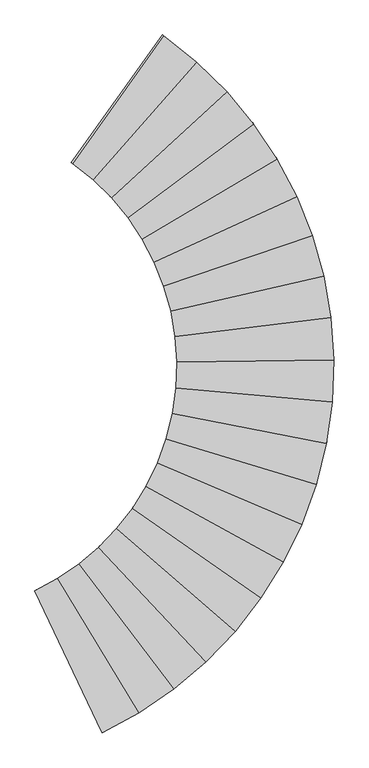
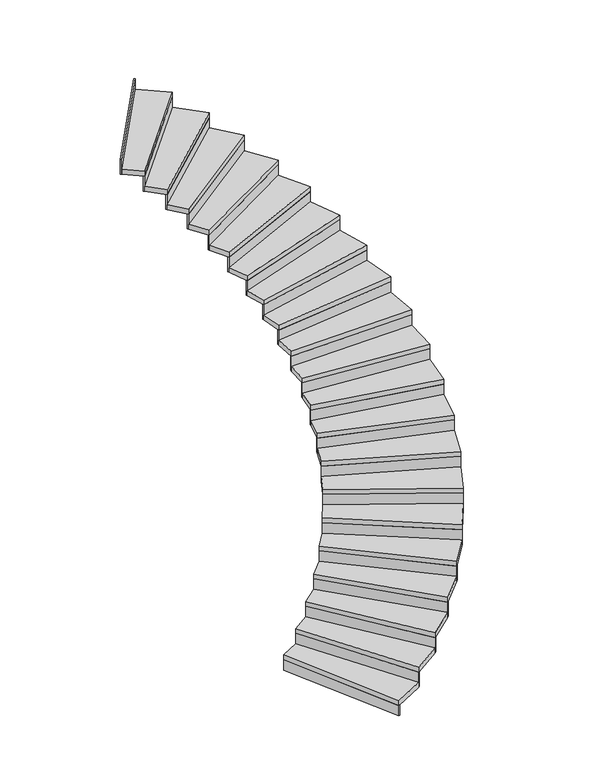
"""IFC4 building model written with IfcOpenShell, lengths in millimetres: stair flight geometry, 50mm 踏板 13mm 踢面."""

import ifcopenshell
import ifcopenshell.guid

model = None  # the IFC model being written
_history = None  # IfcOwnerHistory: only IFC2X3 demands one
_inside = {}  # id of a spatial element -> (the spatial element, [elements in it])
_under = {}  # id of a project, library or spatial element -> (it, [spatial elements below it])
_declared = {}  # id of a project -> (the project, [libraries it declares])
_typed = {}  # id of a type object -> (the type object, [elements of that type])
_made_of = {}  # id of a material, layer set ... -> (it, [elements and type objects made of it])


def new_model(schema):
    """Start an empty IFC model of exactly this schema.

    Asked for "IFC4X3", IfcOpenShell would pick the latest addendum, in which some entities
    have other attributes; the version numbers below select the first issue.
    IFC2X3 requires an IfcOwnerHistory on every rooted entity: one is made here for all.
    """
    global model, _history
    if schema == "IFC4X3":
        model = ifcopenshell.file(schema_version=(4, 3, 0, 0))
    else:
        model = ifcopenshell.file(schema=schema)
    _inside.clear()
    _under.clear()
    _declared.clear()
    _typed.clear()
    _made_of.clear()
    _history = None
    if model.schema == "IFC2X3":
        org = make("IfcOrganization", Name="unknown")
        user = make(
            "IfcPersonAndOrganization",
            ThePerson=make("IfcPerson", FamilyName="unknown"),
            TheOrganization=org,
        )
        app = make(
            "IfcApplication",
            ApplicationDeveloper=org,
            Version="unknown",
            ApplicationFullName="unknown",
            ApplicationIdentifier="unknown",
        )
        _history = make(
            "IfcOwnerHistory",
            OwningUser=user,
            OwningApplication=app,
            ChangeAction="ADDED",
            CreationDate=0,
        )
    return model


def make(cls, **values):
    """One entity of the class cls with the attributes given. An attribute that is None is left unset."""
    return model.create_entity(
        cls, **{name: value for name, value in values.items() if value is not None}
    )


def rooted(cls, **values):
    """An entity with a GlobalId (a new one), such as an element, a storey or a relation."""
    return make(cls, GlobalId=ifcopenshell.guid.new(), OwnerHistory=_history, **values)


def si_unit(unit_type, name, prefix=None):
    """IfcSIUnit, for example si_unit("LENGTHUNIT", "METRE", prefix="MILLI")."""
    return make("IfcSIUnit", UnitType=unit_type, Prefix=prefix, Name=name)


def assignment(units):
    """IfcUnitAssignment: the units of a project."""
    return None if units is None else make("IfcUnitAssignment", Units=units)


def point(xyz):
    """IfcCartesianPoint."""
    return None if xyz is None else make("IfcCartesianPoint", Coordinates=xyz)


def direction(xyz):
    """IfcDirection."""
    return None if xyz is None else make("IfcDirection", DirectionRatios=xyz)


def frame(location, z_axis=None, x_axis=None):
    """IfcAxis2Placement3D, a coordinate frame: its origin and axes. An axis left out is left unset."""
    return make(
        "IfcAxis2Placement3D",
        Location=point(location),
        Axis=direction(z_axis),
        RefDirection=direction(x_axis),
    )


def frame_2d(location, x_axis=None):
    """IfcAxis2Placement2D, a coordinate frame in the plane: its origin and x axis."""
    return make(
        "IfcAxis2Placement2D", Location=point(location), RefDirection=direction(x_axis)
    )


def origin():
    """The frame at (0, 0, 0) with its axes left unset."""
    return frame((0.0, 0.0, 0.0))


def origin_with_axes():
    """The frame at (0, 0, 0) with the z axis (0, 0, 1) and the x axis (1, 0, 0) written out."""
    return frame((0.0, 0.0, 0.0), z_axis=(0.0, 0.0, 1.0), x_axis=(1.0, 0.0, 0.0))


def place(relative_to, where):
    """IfcLocalPlacement: puts the frame where relative to a parent placement (None: the world)."""
    return make(
        "IfcLocalPlacement", PlacementRelTo=relative_to, RelativePlacement=where
    )


def context(
    kind, dimensions, precision=None, world=None, true_north=None, identifier=None
):
    """IfcGeometricRepresentationContext, for example the 3D "Model" context."""
    return make(
        "IfcGeometricRepresentationContext",
        ContextIdentifier=identifier,
        ContextType=kind,
        CoordinateSpaceDimension=dimensions,
        Precision=precision,
        WorldCoordinateSystem=world,
        TrueNorth=true_north,
    )


def project(units=None, contexts=None):
    """IfcProject with its units and contexts."""
    return rooted(
        "IfcProject",
        Name="project",
        RepresentationContexts=contexts,
        UnitsInContext=assignment(units),
    )


def spatial(cls, under=None, at=None, **own):
    """A site, building, storey or space (cls), placed at a placement, below another one or the project."""
    s = rooted(cls, ObjectPlacement=at, **own)
    if under is not None:
        _under.setdefault(under.id(), (under, []))[1].append(s)
    return s


def polyline(points):
    """IfcPolyline through the points."""
    return make("IfcPolyline", Points=[point(p) for p in points])


def circle_curve(where, radius):
    """IfcCircle in the frame where."""
    return make("IfcCircle", Position=where, Radius=radius)


def trimmed(basis, trim1, trim2, sense, master):
    """IfcTrimmedCurve: the piece of a basis curve between two trims."""
    return make(
        "IfcTrimmedCurve",
        BasisCurve=basis,
        Trim1=trim1,
        Trim2=trim2,
        SenseAgreement=sense,
        MasterRepresentation=master,
    )


def segment(curve, same_sense, transition):
    """IfcCompositeCurveSegment."""
    return make(
        "IfcCompositeCurveSegment",
        Transition=transition,
        SameSense=same_sense,
        ParentCurve=curve,
    )


def composite_curve(segments, self_intersect=None):
    """IfcCompositeCurve: segments joined end to end."""
    return make("IfcCompositeCurve", Segments=segments, SelfIntersect=self_intersect)


def outline(outer, holes=None, kind="AREA"):
    """IfcArbitraryClosedProfileDef: a profile drawn as a closed curve; with holes, ...WithVoids."""
    if holes is None:
        return make("IfcArbitraryClosedProfileDef", ProfileType=kind, OuterCurve=outer)
    return make(
        "IfcArbitraryProfileDefWithVoids",
        ProfileType=kind,
        OuterCurve=outer,
        InnerCurves=holes,
    )


def extrude(swept, where, along, depth):
    """IfcExtrudedAreaSolid: the profile swept, set in the frame where, extruded along a direction by depth."""
    return make(
        "IfcExtrudedAreaSolid",
        SweptArea=swept,
        Position=where,
        ExtrudedDirection=direction(along),
        Depth=depth,
    )


def shape(context_of_items, identifier, shape_type, items):
    """IfcShapeRepresentation: the items that make up one representation, for example the "Body"."""
    return make(
        "IfcShapeRepresentation",
        ContextOfItems=context_of_items,
        RepresentationIdentifier=identifier,
        RepresentationType=shape_type,
        Items=items,
    )


def source(mapping_origin, context_of_items, identifier, shape_type, items):
    """IfcRepresentationMap: a shape defined once, which mapped items show again and again."""
    return make(
        "IfcRepresentationMap",
        MappingOrigin=mapping_origin,
        MappedRepresentation=shape(context_of_items, identifier, shape_type, items),
    )


def transform(
    local_origin,
    x_axis=None,
    y_axis=None,
    z_axis=None,
    scale=None,
    scale2=None,
    scale3=None,
    uniform=True,
):
    """IfcCartesianTransformationOperator3D, or its non-uniform kind. x_axis, y_axis, z_axis: its Axis1, 2, 3."""
    if uniform:
        return make(
            "IfcCartesianTransformationOperator3D",
            Axis1=direction(x_axis),
            Axis2=direction(y_axis),
            LocalOrigin=point(local_origin),
            Scale=scale,
            Axis3=direction(z_axis),
        )
    return make(
        "IfcCartesianTransformationOperator3DnonUniform",
        Axis1=direction(x_axis),
        Axis2=direction(y_axis),
        LocalOrigin=point(local_origin),
        Scale=scale,
        Axis3=direction(z_axis),
        Scale2=scale2,
        Scale3=scale3,
    )


def mapped(mapping_source, mapping_target):
    """IfcMappedItem: shows the shape of a source again, moved by a transform."""
    return make(
        "IfcMappedItem", MappingSource=mapping_source, MappingTarget=mapping_target
    )


def made_of(thing, what):
    """Note that an element or type object is made of a material, layer set ...; save() writes the relation."""
    if what is not None:
        _made_of.setdefault(what.id(), (what, []))[1].append(thing)
    return thing


def element(
    cls,
    number,
    at=None,
    inside=None,
    cuts=None,
    type_object=None,
    material=None,
    context=None,
    identifier="Body",
    shape_type=None,
    held_by="IfcProductDefinitionShape",
    body=None,
    shapes=None,
    **own,
):
    """One element of the class cls, such as IfcWall. Its Tag is "e" and its number.

    at: its placement. inside: the storey or other place that contains it. cuts: it is an
    opening in that element (IfcRelVoidsElement). A single representation is given by context,
    identifier, shape_type and body (its items); several are given by shapes. held_by: the class
    of the entity that holds the representations. save() writes the other relations.
    """
    e = rooted(cls, Tag="e%d" % number, ObjectPlacement=at, **own)
    if body is not None:
        shapes = [shape(context, identifier, shape_type, body)]
    if shapes is not None:
        e.Representation = make(held_by, Representations=shapes)
    if inside is not None:
        _inside.setdefault(inside.id(), (inside, []))[1].append(e)
    if cuts is not None:
        rooted(
            "IfcRelVoidsElement", RelatingBuildingElement=cuts, RelatedOpeningElement=e
        )
    if type_object is not None:
        _typed.setdefault(type_object.id(), (type_object, []))[1].append(e)
    return made_of(e, material)


def aggregate(whole, parts):
    """IfcRelAggregates: a whole, such as a stair, and the parts it consists of."""
    return rooted("IfcRelAggregates", RelatingObject=whole, RelatedObjects=parts)


def save(model, path):
    """Write the relations noted so far, then the file.

    IfcRelAggregates (storeys below a building ...), IfcRelContainedInSpatialStructure (elements
    in a storey), IfcRelDefinesByType, IfcRelAssociatesMaterial and IfcRelDeclares: one each for
    every whole, place, type object, material and project.
    """
    for whole, parts in _under.values():
        aggregate(whole, parts)
    for where, things in _inside.values():
        rooted(
            "IfcRelContainedInSpatialStructure",
            RelatedElements=things,
            RelatingStructure=where,
        )
    for kind, things in _typed.values():
        rooted("IfcRelDefinesByType", RelatedObjects=things, RelatingType=kind)
    for what, things in _made_of.values():
        rooted("IfcRelAssociatesMaterial", RelatedObjects=things, RelatingMaterial=what)
    for by, libraries in _declared.values():
        rooted("IfcRelDeclares", RelatingContext=by, RelatedDefinitions=libraries)
    model.write(path)


def stair_flight_b16c3806(model_context):
    return source(origin(), model_context, "Body", "SweptSolid", [
        extrude(outline(composite_curve([segment(trimmed(circle_curve(frame_2d((-5895.4859105, 485.3586995)), 3100.0), [point((-4558.4251981, -2311.4731959))], [point((-4569.7136158, -2316.8418327))], False, "CARTESIAN"), True, "CONTINUOUS"), segment(polyline([(-4569.7136158, -2316.8418327), (-5082.9157944, -1232.1190461)]), True, "CONTINUOUS"), segment(trimmed(circle_curve(frame_2d((-5895.4859105, 485.3586995)), 1900.0), [point((-5082.9157944, -1232.1190461))], [point((-5071.6341839, -1226.7360212))], True, "CARTESIAN"), True, "CONTINUOUS"), segment(polyline([(-5071.6341839, -1226.7360212), (-4558.4251981, -2311.4731959)]), True, "CONTINUOUS")], self_intersect=False)), origin_with_axes(), (0.0, 0.0, 1.0), 107.1428571),
        extrude(outline(composite_curve([segment(polyline([(-4908.9341426, -1138.4379655), (-4285.8488155, -2163.9937539)]), True, "CONTINUOUS"), segment(trimmed(circle_curve(frame_2d((-5895.4859105, 485.3586995)), 3100.0), [point((-4285.8488155, -2163.9937539))], [point((-4569.7136158, -2316.8418327))], False, "CARTESIAN"), True, "CONTINUOUS"), segment(polyline([(-4569.7136158, -2316.8418327), (-5082.9157944, -1232.1190461)]), True, "CONTINUOUS"), segment(trimmed(circle_curve(frame_2d((-5895.4859105, 485.3586995)), 1900.0), [point((-5082.9157944, -1232.1190461))], [point((-4908.9341426, -1138.4379655))], True, "CARTESIAN"), True, "CONTINUOUS")], self_intersect=False)), frame((0.0, 0.0, 107.1428571), z_axis=(0.0, 0.0, 1.0), x_axis=(1.0, 0.0, 0.0)), (0.0, 0.0, 1.0), 50.0),
        extrude(outline(composite_curve([segment(trimmed(circle_curve(frame_2d((-5895.4859105, 485.3586995)), 3100.0), [point((-4275.1790284, -2157.4817436))], [point((-4285.8488155, -2163.9937539))], False, "CARTESIAN"), True, "CONTINUOUS"), segment(polyline([(-4285.8488155, -2163.9937539), (-4908.9341426, -1138.4379655)]), True, "CONTINUOUS"), segment(trimmed(circle_curve(frame_2d((-5895.4859105, 485.3586995)), 1900.0), [point((-4908.9341426, -1138.4379655))], [point((-4898.2726203, -1131.912352))], True, "CARTESIAN"), True, "CONTINUOUS"), segment(polyline([(-4898.2726203, -1131.912352), (-4275.1790284, -2157.4817436)]), True, "CONTINUOUS")], self_intersect=False)), frame((0.0, 0.0, 107.1428571), z_axis=(0.0, 0.0, 1.0), x_axis=(1.0, 0.0, 0.0)), (0.0, 0.0, 1.0), 157.1428571),
        extrude(outline(composite_curve([segment(polyline([(-4745.6230348, -1027.1939003), (-4019.3938501, -1982.490279)]), True, "CONTINUOUS"), segment(trimmed(circle_curve(frame_2d((-5895.4859105, 485.3586995)), 3100.0), [point((-4019.3938501, -1982.490279))], [point((-4285.8488155, -2163.9937539))], False, "CARTESIAN"), True, "CONTINUOUS"), segment(polyline([(-4285.8488155, -2163.9937539), (-4908.9341426, -1138.4379655)]), True, "CONTINUOUS"), segment(trimmed(circle_curve(frame_2d((-5895.4859105, 485.3586995)), 1900.0), [point((-4908.9341426, -1138.4379655))], [point((-4745.6230348, -1027.1939003))], True, "CARTESIAN"), True, "CONTINUOUS")], self_intersect=False)), frame((0.0, 0.0, 264.2857143), z_axis=(0.0, 0.0, 1.0), x_axis=(1.0, 0.0, 0.0)), (0.0, 0.0, 1.0), 50.0),
        extrude(outline(composite_curve([segment(trimmed(circle_curve(frame_2d((-5895.4859105, 485.3586995)), 3100.0), [point((-4009.458098, -1974.9053291))], [point((-4019.3938501, -1982.490279))], False, "CARTESIAN"), True, "CONTINUOUS"), segment(polyline([(-4019.3938501, -1982.490279), (-4745.6230348, -1027.1939003)]), True, "CONTINUOUS"), segment(trimmed(circle_curve(frame_2d((-5895.4859105, 485.3586995)), 1900.0), [point((-4745.6230348, -1027.1939003))], [point((-4735.6969156, -1019.596279))], True, "CARTESIAN"), True, "CONTINUOUS"), segment(polyline([(-4735.6969156, -1019.596279), (-4009.458098, -1974.9053291)]), True, "CONTINUOUS")], self_intersect=False)), frame((0.0, 0.0, 264.2857143), z_axis=(0.0, 0.0, 1.0), x_axis=(1.0, 0.0, 0.0)), (0.0, 0.0, 1.0), 157.1428571),
        extrude(outline(composite_curve([segment(polyline([(-4594.7488438, -899.5900661), (-3773.2306964, -1774.2945496)]), True, "CONTINUOUS"), segment(trimmed(circle_curve(frame_2d((-5895.4859105, 485.3586995)), 3100.0), [point((-3773.2306964, -1774.2945496))], [point((-4019.3938501, -1982.490279))], False, "CARTESIAN"), True, "CONTINUOUS"), segment(polyline([(-4019.3938501, -1982.490279), (-4745.6230348, -1027.1939003)]), True, "CONTINUOUS"), segment(trimmed(circle_curve(frame_2d((-5895.4859105, 485.3586995)), 1900.0), [point((-4745.6230348, -1027.1939003))], [point((-4594.7488438, -899.5900661))], True, "CARTESIAN"), True, "CONTINUOUS")], self_intersect=False)), frame((0.0, 0.0, 421.4285714), z_axis=(0.0, 0.0, 1.0), x_axis=(1.0, 0.0, 0.0)), (0.0, 0.0, 1.0), 50.0),
        extrude(outline(composite_curve([segment(trimmed(circle_curve(frame_2d((-5895.4859105, 485.3586995)), 3100.0), [point((-3764.1364444, -1765.7186989))], [point((-3773.2306964, -1774.2945496))], False, "CARTESIAN"), True, "CONTINUOUS"), segment(polyline([(-3773.2306964, -1774.2945496), (-4594.7488438, -899.5900661)]), True, "CONTINUOUS"), segment(trimmed(circle_curve(frame_2d((-5895.4859105, 485.3586995)), 1900.0), [point((-4594.7488438, -899.5900661))], [point((-4585.6654887, -891.002613))], True, "CARTESIAN"), True, "CONTINUOUS"), segment(polyline([(-4585.6654887, -891.002613), (-3764.1364444, -1765.7186989)]), True, "CONTINUOUS")], self_intersect=False)), frame((0.0, 0.0, 421.4285714), z_axis=(0.0, 0.0, 1.0), x_axis=(1.0, 0.0, 0.0)), (0.0, 0.0, 1.0), 157.1428571),
        extrude(outline(composite_curve([segment(polyline([(-4457.9434249, -757.0066261), (-3550.0218551, -1541.6584106)]), True, "CONTINUOUS"), segment(trimmed(circle_curve(frame_2d((-5895.4859105, 485.3586995)), 3100.0), [point((-3550.0218551, -1541.6584106))], [point((-3773.2306964, -1774.2945496))], False, "CARTESIAN"), True, "CONTINUOUS"), segment(polyline([(-3773.2306964, -1774.2945496), (-4594.7488438, -899.5900661)]), True, "CONTINUOUS"), segment(trimmed(circle_curve(frame_2d((-5895.4859105, 485.3586995)), 1900.0), [point((-4594.7488438, -899.5900661))], [point((-4457.9434249, -757.0066261))], True, "CARTESIAN"), True, "CONTINUOUS")], self_intersect=False)), frame((0.0, 0.0, 578.5714286), z_axis=(0.0, 0.0, 1.0), x_axis=(1.0, 0.0, 0.0)), (0.0, 0.0, 1.0), 50.0),
        extrude(outline(composite_curve([segment(trimmed(circle_curve(frame_2d((-5895.4859105, 485.3586995)), 3100.0), [point((-3541.8674666, -1532.1844155))], [point((-3550.0218551, -1541.6584106))], False, "CARTESIAN"), True, "CONTINUOUS"), segment(polyline([(-3550.0218551, -1541.6584106), (-4457.9434249, -757.0066261)]), True, "CONTINUOUS"), segment(trimmed(circle_curve(frame_2d((-5895.4859105, 485.3586995)), 1900.0), [point((-4457.9434249, -757.0066261))], [point((-4449.8010794, -747.5222231))], True, "CARTESIAN"), True, "CONTINUOUS"), segment(polyline([(-4449.8010794, -747.5222231), (-3541.8674666, -1532.1844155)]), True, "CONTINUOUS")], self_intersect=False)), frame((0.0, 0.0, 578.5714286), z_axis=(0.0, 0.0, 1.0), x_axis=(1.0, 0.0, 0.0)), (0.0, 0.0, 1.0), 157.1428571),
        extrude(outline(composite_curve([segment(polyline([(-4336.6864656, -600.9857627), (-3352.181553, -1287.0980546)]), True, "CONTINUOUS"), segment(trimmed(circle_curve(frame_2d((-5895.4859105, 485.3586995)), 3100.0), [point((-3352.181553, -1287.0980546))], [point((-3550.0218551, -1541.6584106))], False, "CARTESIAN"), True, "CONTINUOUS"), segment(polyline([(-3550.0218551, -1541.6584106), (-4457.9434249, -757.0066261)]), True, "CONTINUOUS"), segment(trimmed(circle_curve(frame_2d((-5895.4859105, 485.3586995)), 1900.0), [point((-4457.9434249, -757.0066261))], [point((-4336.6864656, -600.9857627))], True, "CARTESIAN"), True, "CONTINUOUS")], self_intersect=False)), frame((0.0, 0.0, 735.7142857), z_axis=(0.0, 0.0, 1.0), x_axis=(1.0, 0.0, 0.0)), (0.0, 0.0, 1.0), 50.0),
        extrude(outline(composite_curve([segment(trimmed(circle_curve(frame_2d((-5895.4859105, 485.3586995)), 3100.0), [point((-3345.055226, -1276.8283857))], [point((-3352.181553, -1287.0980546))], False, "CARTESIAN"), True, "CONTINUOUS"), segment(polyline([(-3352.181553, -1287.0980546), (-4336.6864656, -600.9857627)]), True, "CONTINUOUS"), segment(trimmed(circle_curve(frame_2d((-5895.4859105, 485.3586995)), 1900.0), [point((-4336.6864656, -600.9857627))], [point((-4329.5731973, -590.7069931))], True, "CARTESIAN"), True, "CONTINUOUS"), segment(polyline([(-4329.5731973, -590.7069931), (-3345.055226, -1276.8283857)]), True, "CONTINUOUS")], self_intersect=False)), frame((0.0, 0.0, 735.7142857), z_axis=(0.0, 0.0, 1.0), x_axis=(1.0, 0.0, 0.0)), (0.0, 0.0, 1.0), 157.1428571),
        extrude(outline(composite_curve([segment(polyline([(-4232.2894811, -433.2149976), (-3181.8496308, -1013.3668063)]), True, "CONTINUOUS"), segment(trimmed(circle_curve(frame_2d((-5895.4859105, 485.3586995)), 3100.0), [point((-3181.8496308, -1013.3668063))], [point((-3352.181553, -1287.0980546))], False, "CARTESIAN"), True, "CONTINUOUS"), segment(polyline([(-3352.181553, -1287.0980546), (-4336.6864656, -600.9857627)]), True, "CONTINUOUS"), segment(trimmed(circle_curve(frame_2d((-5895.4859105, 485.3586995)), 1900.0), [point((-4336.6864656, -600.9857627))], [point((-4232.2894811, -433.2149976))], True, "CARTESIAN"), True, "CONTINUOUS")], self_intersect=False)), frame((0.0, 0.0, 892.8571429), z_axis=(0.0, 0.0, 1.0), x_axis=(1.0, 0.0, 0.0)), (0.0, 0.0, 1.0), 50.0),
        extrude(outline(composite_curve([segment(trimmed(circle_curve(frame_2d((-5895.4859105, 485.3586995)), 3100.0), [point((-3175.8284436, -1002.4125405))], [point((-3181.8496308, -1013.3668063))], False, "CARTESIAN"), True, "CONTINUOUS"), segment(polyline([(-3181.8496308, -1013.3668063), (-4232.2894811, -433.2149976)]), True, "CONTINUOUS"), segment(trimmed(circle_curve(frame_2d((-5895.4859105, 485.3586995)), 1900.0), [point((-4232.2894811, -433.2149976))], [point((-4226.2822271, -422.2530365))], True, "CARTESIAN"), True, "CONTINUOUS"), segment(polyline([(-4226.2822271, -422.2530365), (-3175.8284436, -1002.4125405)]), True, "CONTINUOUS")], self_intersect=False)), frame((0.0, 0.0, 892.8571429), z_axis=(0.0, 0.0, 1.0), x_axis=(1.0, 0.0, 0.0)), (0.0, 0.0, 1.0), 157.1428571),
        extrude(outline(composite_curve([segment(polyline([(-4145.8816291, -255.5089394), (-3040.8683987, -723.4253429)]), True, "CONTINUOUS"), segment(trimmed(circle_curve(frame_2d((-5895.4859105, 485.3586995)), 3100.0), [point((-3040.8683987, -723.4253429))], [point((-3181.8496308, -1013.3668063))], False, "CARTESIAN"), True, "CONTINUOUS"), segment(polyline([(-3181.8496308, -1013.3668063), (-4232.2894811, -433.2149976)]), True, "CONTINUOUS"), segment(trimmed(circle_curve(frame_2d((-5895.4859105, 485.3586995)), 1900.0), [point((-4232.2894811, -433.2149976))], [point((-4145.8816291, -255.5089394))], True, "CARTESIAN"), True, "CONTINUOUS")], self_intersect=False)), frame((0.0, 0.0, 1050.0), z_axis=(0.0, 0.0, 1.0), x_axis=(1.0, 0.0, 0.0)), (0.0, 0.0, 1.0), 50.0),
        extrude(outline(composite_curve([segment(trimmed(circle_curve(frame_2d((-5895.4859105, 485.3586995)), 3100.0), [point((-3036.0174764, -711.9049615))], [point((-3040.8683987, -723.4253429))], False, "CARTESIAN"), True, "CONTINUOUS"), segment(polyline([(-3040.8683987, -723.4253429), (-4145.8816291, -255.5089394)]), True, "CONTINUOUS"), segment(trimmed(circle_curve(frame_2d((-5895.4859105, 485.3586995)), 1900.0), [point((-4145.8816291, -255.5089394))], [point((-4141.045364, -243.9823514))], True, "CARTESIAN"), True, "CONTINUOUS"), segment(polyline([(-4141.045364, -243.9823514), (-3036.0174764, -711.9049615)]), True, "CONTINUOUS")], self_intersect=False)), frame((0.0, 0.0, 1050.0), z_axis=(0.0, 0.0, 1.0), x_axis=(1.0, 0.0, 0.0)), (0.0, 0.0, 1.0), 157.1428571),
        extrude(outline(composite_curve([segment(polyline([(-4078.397497, -69.7896568), (-2930.7627096, -420.4096713)]), True, "CONTINUOUS"), segment(trimmed(circle_curve(frame_2d((-5895.4859105, 485.3586995)), 3100.0), [point((-2930.7627096, -420.4096713))], [point((-3040.8683987, -723.4253429))], False, "CARTESIAN"), True, "CONTINUOUS"), segment(polyline([(-3040.8683987, -723.4253429), (-4145.8816291, -255.5089394)]), True, "CONTINUOUS"), segment(trimmed(circle_curve(frame_2d((-5895.4859105, 485.3586995)), 1900.0), [point((-4145.8816291, -255.5089394))], [point((-4078.397497, -69.7896568))], True, "CARTESIAN"), True, "CONTINUOUS")], self_intersect=False)), frame((0.0, 0.0, 1207.1428571), z_axis=(0.0, 0.0, 1.0), x_axis=(1.0, 0.0, 0.0)), (0.0, 0.0, 1.0), 50.0),
        extrude(outline(composite_curve([segment(trimmed(circle_curve(frame_2d((-5895.4859105, 485.3586995)), 3100.0), [point((-2927.1345197, -408.4477788))], [point((-2930.7627096, -420.4096713))], False, "CARTESIAN"), True, "CONTINUOUS"), segment(polyline([(-2930.7627096, -420.4096713), (-4078.397497, -69.7896568)]), True, "CONTINUOUS"), segment(trimmed(circle_curve(frame_2d((-5895.4859105, 485.3586995)), 1900.0), [point((-4078.397497, -69.7896568))], [point((-4074.7845298, -57.8231135))], True, "CARTESIAN"), True, "CONTINUOUS"), segment(polyline([(-4074.7845298, -57.8231135), (-2927.1345197, -408.4477788)]), True, "CONTINUOUS")], self_intersect=False)), frame((0.0, 0.0, 1207.1428571), z_axis=(0.0, 0.0, 1.0), x_axis=(1.0, 0.0, 0.0)), (0.0, 0.0, 1.0), 157.1428571),
        extrude(outline(composite_curve([segment(polyline([(-4030.5669933, 121.9341104), (-2852.7234666, -107.5972091)]), True, "CONTINUOUS"), segment(trimmed(circle_curve(frame_2d((-5895.4859105, 485.3586995)), 3100.0), [point((-2852.7234666, -107.5972091))], [point((-2930.7627096, -420.4096713))], False, "CARTESIAN"), True, "CONTINUOUS"), segment(polyline([(-2930.7627096, -420.4096713), (-4078.397497, -69.7896568)]), True, "CONTINUOUS"), segment(trimmed(circle_curve(frame_2d((-5895.4859105, 485.3586995)), 1900.0), [point((-4078.397497, -69.7896568))], [point((-4030.5669933, 121.9341104))], True, "CARTESIAN"), True, "CONTINUOUS")], self_intersect=False)), frame((0.0, 0.0, 1364.2857143), z_axis=(0.0, 0.0, 1.0), x_axis=(1.0, 0.0, 0.0)), (0.0, 0.0, 1.0), 50.0),
        extrude(outline(composite_curve([segment(trimmed(circle_curve(frame_2d((-5895.4859105, 485.3586995)), 3100.0), [point((-2850.3572517, -95.3231852))], [point((-2852.7234666, -107.5972091))], False, "CARTESIAN"), True, "CONTINUOUS"), segment(polyline([(-2852.7234666, -107.5972091), (-4030.5669933, 121.9341104)]), True, "CONTINUOUS"), segment(trimmed(circle_curve(frame_2d((-5895.4859105, 485.3586995)), 1900.0), [point((-4030.5669933, 121.9341104))], [point((-4028.2164017, 134.2111788))], True, "CARTESIAN"), True, "CONTINUOUS"), segment(polyline([(-4028.2164017, 134.2111788), (-2850.3572517, -95.3231852)]), True, "CONTINUOUS")], self_intersect=False)), frame((0.0, 0.0, 1364.2857143), z_axis=(0.0, 0.0, 1.0), x_axis=(1.0, 0.0, 0.0)), (0.0, 0.0, 1.0), 157.1428571),
        extrude(outline(composite_curve([segment(polyline([(-4002.9074525, 317.5886779), (-2807.5947422, 211.6286643)]), True, "CONTINUOUS"), segment(trimmed(circle_curve(frame_2d((-5895.4859105, 485.3586995)), 3100.0), [point((-2807.5947422, 211.6286643))], [point((-2852.7234666, -107.5972091))], False, "CARTESIAN"), True, "CONTINUOUS"), segment(polyline([(-2852.7234666, -107.5972091), (-4030.5669933, 121.9341104)]), True, "CONTINUOUS"), segment(trimmed(circle_curve(frame_2d((-5895.4859105, 485.3586995)), 1900.0), [point((-4030.5669933, 121.9341104))], [point((-4002.9074525, 317.5886779))], True, "CARTESIAN"), True, "CONTINUOUS")], self_intersect=False)), frame((0.0, 0.0, 1521.4285714), z_axis=(0.0, 0.0, 1.0), x_axis=(1.0, 0.0, 0.0)), (0.0, 0.0, 1.0), 50.0),
        extrude(outline(composite_curve([segment(trimmed(circle_curve(frame_2d((-5895.4859105, 485.3586995)), 3100.0), [point((-2806.5160953, 224.0820637))], [point((-2807.5947422, 211.6286643))], False, "CARTESIAN"), True, "CONTINUOUS"), segment(polyline([(-2807.5947422, 211.6286643), (-4002.9074525, 317.5886779)]), True, "CONTINUOUS"), segment(trimmed(circle_curve(frame_2d((-5895.4859105, 485.3586995)), 1900.0), [point((-4002.9074525, 317.5886779))], [point((-4001.8446606, 330.0434828))], True, "CARTESIAN"), True, "CONTINUOUS"), segment(polyline([(-4001.8446606, 330.0434828), (-2806.5160953, 224.0820637)]), True, "CONTINUOUS")], self_intersect=False)), frame((0.0, 0.0, 1521.4285714), z_axis=(0.0, 0.0, 1.0), x_axis=(1.0, 0.0, 0.0)), (0.0, 0.0, 1.0), 157.1428571),
        extrude(outline(composite_curve([segment(polyline([(-3995.7180403, 515.057846), (-2795.8646486, 533.8152018)]), True, "CONTINUOUS"), segment(trimmed(circle_curve(frame_2d((-5895.4859105, 485.3586995)), 3100.0), [point((-2795.8646486, 533.8152018))], [point((-2807.5947422, 211.6286643))], False, "CARTESIAN"), True, "CONTINUOUS"), segment(polyline([(-2807.5947422, 211.6286643), (-4002.9074525, 317.5886779)]), True, "CONTINUOUS"), segment(trimmed(circle_curve(frame_2d((-5895.4859105, 485.3586995)), 1900.0), [point((-4002.9074525, 317.5886779))], [point((-3995.7180403, 515.057846))], True, "CARTESIAN"), True, "CONTINUOUS")], self_intersect=False)), frame((0.0, 0.0, 1678.5714286), z_axis=(0.0, 0.0, 1.0), x_axis=(1.0, 0.0, 0.0)), (0.0, 0.0, 1.0), 50.0),
        extrude(outline(composite_curve([segment(trimmed(circle_curve(frame_2d((-5895.4859105, 485.3586995)), 3100.0), [point((-2796.0852364, 546.3132807))], [point((-2795.8646486, 533.8152018))], False, "CARTESIAN"), True, "CONTINUOUS"), segment(polyline([(-2795.8646486, 533.8152018), (-3995.7180403, 515.057846)]), True, "CONTINUOUS"), segment(trimmed(circle_curve(frame_2d((-5895.4859105, 485.3586995)), 1900.0), [point((-3995.7180403, 515.057846))], [point((-3995.9545433, 527.5556761))], True, "CARTESIAN"), True, "CONTINUOUS"), segment(polyline([(-3995.9545433, 527.5556761), (-2796.0852364, 546.3132807)]), True, "CONTINUOUS")], self_intersect=False)), frame((0.0, 0.0, 1678.5714286), z_axis=(0.0, 0.0, 1.0), x_axis=(1.0, 0.0, 0.0)), (0.0, 0.0, 1.0), 157.1428571),
        extrude(outline(composite_curve([segment(polyline([(-4009.0765175, 712.2057882), (-2817.6600587, 855.4776337)]), True, "CONTINUOUS"), segment(trimmed(circle_curve(frame_2d((-5895.4859105, 485.3586995)), 3100.0), [point((-2817.6600587, 855.4776337))], [point((-2795.8646486, 533.8152018))], False, "CARTESIAN"), True, "CONTINUOUS"), segment(polyline([(-2795.8646486, 533.8152018), (-3995.7180403, 515.057846)]), True, "CONTINUOUS"), segment(trimmed(circle_curve(frame_2d((-5895.4859105, 485.3586995)), 1900.0), [point((-3995.7180403, 515.057846))], [point((-4009.0765175, 712.2057882))], True, "CARTESIAN"), True, "CONTINUOUS")], self_intersect=False)), frame((0.0, 0.0, 1835.7142857), z_axis=(0.0, 0.0, 1.0), x_axis=(1.0, 0.0, 0.0)), (0.0, 0.0, 1.0), 50.0),
        extrude(outline(composite_curve([segment(trimmed(circle_curve(frame_2d((-5895.4859105, 485.3586995)), 3100.0), [point((-2819.1774952, 867.8852129))], [point((-2817.6600587, 855.4776337))], False, "CARTESIAN"), True, "CONTINUOUS"), segment(polyline([(-2817.6600587, 855.4776337), (-4009.0765175, 712.2057882)]), True, "CONTINUOUS"), segment(trimmed(circle_curve(frame_2d((-5895.4859105, 485.3586995)), 1900.0), [point((-4009.0765175, 712.2057882))], [point((-4010.6097573, 724.611467))], True, "CARTESIAN"), True, "CONTINUOUS"), segment(polyline([(-4010.6097573, 724.611467), (-2819.1774952, 867.8852129)]), True, "CONTINUOUS")], self_intersect=False)), frame((0.0, 0.0, 1835.7142857), z_axis=(0.0, 0.0, 1.0), x_axis=(1.0, 0.0, 0.0)), (0.0, 0.0, 1.0), 157.1428571),
        extrude(outline(composite_curve([segment(polyline([(-4042.8383986, 906.9001522), (-2872.7452331, 1173.1368592)]), True, "CONTINUOUS"), segment(trimmed(circle_curve(frame_2d((-5895.4859105, 485.3586995)), 3100.0), [point((-2872.7452331, 1173.1368592))], [point((-2817.6600587, 855.4776337))], False, "CARTESIAN"), True, "CONTINUOUS"), segment(polyline([(-2817.6600587, 855.4776337), (-4009.0765175, 712.2057882)]), True, "CONTINUOUS"), segment(trimmed(circle_curve(frame_2d((-5895.4859105, 485.3586995)), 1900.0), [point((-4009.0765175, 712.2057882))], [point((-4042.8383986, 906.9001522))], True, "CARTESIAN"), True, "CONTINUOUS")], self_intersect=False)), frame((0.0, 0.0, 1992.8571429), z_axis=(0.0, 0.0, 1.0), x_axis=(1.0, 0.0, 0.0)), (0.0, 0.0, 1.0), 50.0),
        extrude(outline(composite_curve([segment(trimmed(circle_curve(frame_2d((-5895.4859105, 485.3586995)), 3100.0), [point((-2875.5431058, 1185.3197383))], [point((-2872.7452331, 1173.1368592))], False, "CARTESIAN"), True, "CONTINUOUS"), segment(polyline([(-2872.7452331, 1173.1368592), (-4042.8383986, 906.9001522)]), True, "CONTINUOUS"), segment(trimmed(circle_curve(frame_2d((-5895.4859105, 485.3586995)), 1900.0), [point((-4042.8383986, 906.9001522))], [point((-4045.6517917, 919.0794999))], True, "CARTESIAN"), True, "CONTINUOUS"), segment(polyline([(-4045.6517917, 919.0794999), (-2875.5431058, 1185.3197383)]), True, "CONTINUOUS")], self_intersect=False)), frame((0.0, 0.0, 1992.8571429), z_axis=(0.0, 0.0, 1.0), x_axis=(1.0, 0.0, 0.0)), (0.0, 0.0, 1.0), 157.1428571),
        extrude(outline(composite_curve([segment(polyline([(-4096.6385152, 1097.0351239), (-2960.5243707, 1483.3570761)]), True, "CONTINUOUS"), segment(trimmed(circle_curve(frame_2d((-5895.4859105, 485.3586995)), 3100.0), [point((-2960.5243707, 1483.3570761))], [point((-2872.7452331, 1173.1368592))], False, "CARTESIAN"), True, "CONTINUOUS"), segment(polyline([(-2872.7452331, 1173.1368592), (-4042.8383986, 906.9001522)]), True, "CONTINUOUS"), segment(trimmed(circle_curve(frame_2d((-5895.4859105, 485.3586995)), 1900.0), [point((-4042.8383986, 906.9001522))], [point((-4096.6385152, 1097.0351239))], True, "CARTESIAN"), True, "CONTINUOUS")], self_intersect=False)), frame((0.0, 0.0, 2150.0), z_axis=(0.0, 0.0, 1.0), x_axis=(1.0, 0.0, 0.0)), (0.0, 0.0, 1.0), 50.0),
        extrude(outline(composite_curve([segment(trimmed(circle_curve(frame_2d((-5895.4859105, 485.3586995)), 3100.0), [point((-2964.5724178, 1495.1834852))], [point((-2960.5243707, 1483.3570761))], False, "CARTESIAN"), True, "CONTINUOUS"), segment(polyline([(-2960.5243707, 1483.3570761), (-4096.6385152, 1097.0351239)]), True, "CONTINUOUS"), segment(trimmed(circle_curve(frame_2d((-5895.4859105, 485.3586995)), 1900.0), [point((-4096.6385152, 1097.0351239))], [point((-4100.701632, 1108.8564086))], True, "CARTESIAN"), True, "CONTINUOUS"), segment(polyline([(-4100.701632, 1108.8564086), (-2964.5724178, 1495.1834852)]), True, "CONTINUOUS")], self_intersect=False)), frame((0.0, 0.0, 2150.0), z_axis=(0.0, 0.0, 1.0), x_axis=(1.0, 0.0, 0.0)), (0.0, 0.0, 1.0), 157.1428571),
        extrude(outline(composite_curve([segment(polyline([(-4169.8949652, 1280.5542033), (-3080.0480524, 1782.7829426)]), True, "CONTINUOUS"), segment(trimmed(circle_curve(frame_2d((-5895.4859105, 485.3586995)), 3100.0), [point((-3080.0480524, 1782.7829426))], [point((-2960.5243707, 1483.3570761))], False, "CARTESIAN"), True, "CONTINUOUS"), segment(polyline([(-2960.5243707, 1483.3570761), (-4096.6385152, 1097.0351239)]), True, "CONTINUOUS"), segment(trimmed(circle_curve(frame_2d((-5895.4859105, 485.3586995)), 1900.0), [point((-4096.6385152, 1097.0351239))], [point((-4169.8949652, 1280.5542033))], True, "CARTESIAN"), True, "CONTINUOUS")], self_intersect=False)), frame((0.0, 0.0, 2307.1428571), z_axis=(0.0, 0.0, 1.0), x_axis=(1.0, 0.0, 0.0)), (0.0, 0.0, 1.0), 50.0),
        extrude(outline(composite_curve([segment(trimmed(circle_curve(frame_2d((-5895.4859105, 485.3586995)), 3100.0), [point((-3085.3024901, 1794.1249671))], [point((-3080.0480524, 1782.7829426))], False, "CARTESIAN"), True, "CONTINUOUS"), segment(polyline([(-3080.0480524, 1782.7829426), (-4169.8949652, 1280.5542033)]), True, "CONTINUOUS"), segment(trimmed(circle_curve(frame_2d((-5895.4859105, 485.3586995)), 1900.0), [point((-4169.8949652, 1280.5542033))], [point((-4175.163859, 1291.8895661))], True, "CARTESIAN"), True, "CONTINUOUS"), segment(polyline([(-4175.163859, 1291.8895661), (-3085.3024901, 1794.1249671)]), True, "CONTINUOUS")], self_intersect=False)), frame((0.0, 0.0, 2307.1428571), z_axis=(0.0, 0.0, 1.0), x_axis=(1.0, 0.0, 0.0)), (0.0, 0.0, 1.0), 157.1428571),
        extrude(outline(composite_curve([segment(polyline([(-4261.8154069, 1455.4724482), (-3230.0235099, 2068.1758685)]), True, "CONTINUOUS"), segment(trimmed(circle_curve(frame_2d((-5895.4859105, 485.3586995)), 3100.0), [point((-3230.0235099, 2068.1758685))], [point((-3080.0480524, 1782.7829426))], False, "CARTESIAN"), True, "CONTINUOUS"), segment(polyline([(-3080.0480524, 1782.7829426), (-4169.8949652, 1280.5542033)]), True, "CONTINUOUS"), segment(trimmed(circle_curve(frame_2d((-5895.4859105, 485.3586995)), 1900.0), [point((-4169.8949652, 1280.5542033))], [point((-4261.8154069, 1455.4724482))], True, "CARTESIAN"), True, "CONTINUOUS")], self_intersect=False)), frame((0.0, 0.0, 2464.2857143), z_axis=(0.0, 0.0, 1.0), x_axis=(1.0, 0.0, 0.0)), (0.0, 0.0, 1.0), 50.0),
        extrude(outline(composite_curve([segment(trimmed(circle_curve(frame_2d((-5895.4859105, 485.3586995)), 3100.0), [point((-3236.4275063, 2078.9108331))], [point((-3230.0235099, 2068.1758685))], False, "CARTESIAN"), True, "CONTINUOUS"), segment(polyline([(-3230.0235099, 2068.1758685), (-4261.8154069, 1455.4724482)]), True, "CONTINUOUS"), segment(trimmed(circle_curve(frame_2d((-5895.4859105, 485.3586995)), 1900.0), [point((-4261.8154069, 1455.4724482))], [point((-4268.2330893, 1466.1992858))], True, "CARTESIAN"), True, "CONTINUOUS"), segment(polyline([(-4268.2330893, 1466.1992858), (-3236.4275063, 2078.9108331)]), True, "CONTINUOUS")], self_intersect=False)), frame((0.0, 0.0, 2464.2857143), z_axis=(0.0, 0.0, 1.0), x_axis=(1.0, 0.0, 0.0)), (0.0, 0.0, 1.0), 157.1428571),
        extrude(outline(composite_curve([segment(polyline([(-4371.4056288, 1619.8979428), (-3408.8286087, 2336.4490439)]), True, "CONTINUOUS"), segment(trimmed(circle_curve(frame_2d((-5895.4859105, 485.3586995)), 3100.0), [point((-3408.8286087, 2336.4490439))], [point((-3230.0235099, 2068.1758685))], False, "CARTESIAN"), True, "CONTINUOUS"), segment(polyline([(-3230.0235099, 2068.1758685), (-4261.8154069, 1455.4724482)]), True, "CONTINUOUS"), segment(trimmed(circle_curve(frame_2d((-5895.4859105, 485.3586995)), 1900.0), [point((-4261.8154069, 1455.4724482))], [point((-4371.4056288, 1619.8979428))], True, "CARTESIAN"), True, "CONTINUOUS")], self_intersect=False)), frame((0.0, 0.0, 2621.4285714), z_axis=(0.0, 0.0, 1.0), x_axis=(1.0, 0.0, 0.0)), (0.0, 0.0, 1.0), 50.0),
        extrude(outline(composite_curve([segment(trimmed(circle_curve(frame_2d((-5895.4859105, 485.3586995)), 3100.0), [point((-3416.3128982, 2346.4608393))], [point((-3408.8286087, 2336.4490439))], False, "CARTESIAN"), True, "CONTINUOUS"), segment(polyline([(-3408.8286087, 2336.4490439), (-4371.4056288, 1619.8979428)]), True, "CONTINUOUS"), segment(trimmed(circle_curve(frame_2d((-5895.4859105, 485.3586995)), 1900.0), [point((-4371.4056288, 1619.8979428))], [point((-4378.9026862, 1629.9002336))], True, "CARTESIAN"), True, "CONTINUOUS"), segment(polyline([(-4378.9026862, 1629.9002336), (-3416.3128982, 2346.4608393)]), True, "CONTINUOUS")], self_intersect=False)), frame((0.0, 0.0, 2621.4285714), z_axis=(0.0, 0.0, 1.0), x_axis=(1.0, 0.0, 0.0)), (0.0, 0.0, 1.0), 157.1428571),
        extrude(outline(composite_curve([segment(polyline([(-4497.480303, 1772.052261), (-3614.5293929, 2584.7008261)]), True, "CONTINUOUS"), segment(trimmed(circle_curve(frame_2d((-5895.4859105, 485.3586995)), 3100.0), [point((-3614.5293929, 2584.7008261))], [point((-3408.8286087, 2336.4490439))], False, "CARTESIAN"), True, "CONTINUOUS"), segment(polyline([(-3408.8286087, 2336.4490439), (-4371.4056288, 1619.8979428)]), True, "CONTINUOUS"), segment(trimmed(circle_curve(frame_2d((-5895.4859105, 485.3586995)), 1900.0), [point((-4371.4056288, 1619.8979428))], [point((-4497.480303, 1772.052261))], True, "CARTESIAN"), True, "CONTINUOUS")], self_intersect=False)), frame((0.0, 0.0, 2778.5714286), z_axis=(0.0, 0.0, 1.0), x_axis=(1.0, 0.0, 0.0)), (0.0, 0.0, 1.0), 50.0),
        extrude(outline(composite_curve([segment(trimmed(circle_curve(frame_2d((-5895.4859105, 485.3586995)), 3100.0), [point((-3623.0130254, 2593.8811646))], [point((-3614.5293929, 2584.7008261))], False, "CARTESIAN"), True, "CONTINUOUS"), segment(polyline([(-3614.5293929, 2584.7008261), (-4497.480303, 1772.052261)]), True, "CONTINUOUS"), segment(trimmed(circle_curve(frame_2d((-5895.4859105, 485.3586995)), 1900.0), [point((-4497.480303, 1772.052261))], [point((-4505.9756472, 1781.2218203))], True, "CARTESIAN"), True, "CONTINUOUS"), segment(polyline([(-4505.9756472, 1781.2218203), (-3623.0130254, 2593.8811646)]), True, "CONTINUOUS")], self_intersect=False)), frame((0.0, 0.0, 2778.5714286), z_axis=(0.0, 0.0, 1.0), x_axis=(1.0, 0.0, 0.0)), (0.0, 0.0, 1.0), 157.1428571),
        extrude(outline(composite_curve([segment(polyline([(-4638.6758058, 1910.2897015), (-3844.9010028, 2810.2461239)]), True, "CONTINUOUS"), segment(trimmed(circle_curve(frame_2d((-5895.4859105, 485.3586995)), 3100.0), [point((-3844.9010028, 2810.2461239))], [point((-3614.5293929, 2584.7008261))], False, "CARTESIAN"), True, "CONTINUOUS"), segment(polyline([(-3614.5293929, 2584.7008261), (-4497.480303, 1772.052261)]), True, "CONTINUOUS"), segment(trimmed(circle_curve(frame_2d((-5895.4859105, 485.3586995)), 1900.0), [point((-4497.480303, 1772.052261))], [point((-4638.6758058, 1910.2897015))], True, "CARTESIAN"), True, "CONTINUOUS")], self_intersect=False)), frame((0.0, 0.0, 2935.7142857), z_axis=(0.0, 0.0, 1.0), x_axis=(1.0, 0.0, 0.0)), (0.0, 0.0, 1.0), 50.0),
        extrude(outline(composite_curve([segment(trimmed(circle_curve(frame_2d((-5895.4859105, 485.3586995)), 3100.0), [point((-3854.2922193, 2818.495711))], [point((-3844.9010028, 2810.2461239))], False, "CARTESIAN"), True, "CONTINUOUS"), segment(polyline([(-3844.9010028, 2810.2461239), (-4638.6758058, 1910.2897015)]), True, "CONTINUOUS"), segment(trimmed(circle_curve(frame_2d((-5895.4859105, 485.3586995)), 1900.0), [point((-4638.6758058, 1910.2897015))], [point((-4648.0775512, 1918.5273514))], True, "CARTESIAN"), True, "CONTINUOUS"), segment(polyline([(-4648.0775512, 1918.5273514), (-3854.2922193, 2818.495711)]), True, "CONTINUOUS")], self_intersect=False)), frame((0.0, 0.0, 2935.7142857), z_axis=(0.0, 0.0, 1.0), x_axis=(1.0, 0.0, 0.0)), (0.0, 0.0, 1.0), 157.1428571),
        extrude(outline(composite_curve([segment(trimmed(circle_curve(frame_2d((-5895.4859105, 485.3586995)), 3100.0), [point((-4107.6489642, 3017.8750475))], [point((-4097.4517391, 3010.6454393))], False, "CARTESIAN"), True, "CONTINUOUS"), segment(polyline([(-4097.4517391, 3010.6454393), (-4793.4649668, 2033.1150884)]), True, "CONTINUOUS"), segment(trimmed(circle_curve(frame_2d((-5895.4859105, 485.3586995)), 1900.0), [point((-4793.4649668, 2033.1150884))], [point((-4803.671424, 2040.3317304))], True, "CARTESIAN"), True, "CONTINUOUS"), segment(polyline([(-4803.671424, 2040.3317304), (-4107.6489642, 3017.8750475)]), True, "CONTINUOUS")], self_intersect=False)), frame((0.0, 0.0, 3092.8571429), z_axis=(0.0, 0.0, 1.0), x_axis=(1.0, 0.0, 0.0)), (0.0, 0.0, 1.0), 157.1428571),
        extrude(outline(composite_curve([segment(polyline([(-4793.4649668, 2033.1150884), (-4097.4517391, 3010.6454393)]), True, "CONTINUOUS"), segment(trimmed(circle_curve(frame_2d((-5895.4859105, 485.3586995)), 3100.0), [point((-4097.4517391, 3010.6454393))], [point((-3844.9010028, 2810.2461239))], False, "CARTESIAN"), True, "CONTINUOUS"), segment(polyline([(-3844.9010028, 2810.2461239), (-4638.6758058, 1910.2897015)]), True, "CONTINUOUS"), segment(trimmed(circle_curve(frame_2d((-5895.4859105, 485.3586995)), 1900.0), [point((-4638.6758058, 1910.2897015))], [point((-4793.4649668, 2033.1150884))], True, "CARTESIAN"), True, "CONTINUOUS")], self_intersect=False)), frame((0.0, 0.0, 3092.8571429), z_axis=(0.0, 0.0, 1.0), x_axis=(1.0, 0.0, 0.0)), (0.0, 0.0, 1.0), 50.0),
    ])


if __name__ == "__main__":
    model = new_model("IFC4")
    model_context = context("Model", 3, world=origin())
    ifc_project = project(units=[si_unit("LENGTHUNIT", "METRE", prefix="MILLI")], contexts=[model_context])
    site = spatial("IfcSite", under=ifc_project)
    building = spatial("IfcBuilding", under=site)
    placement = place(None, origin())
    stair_flight_shape = stair_flight_b16c3806(model_context)
    element("IfcStairFlight", 1, ObjectType="50mm 踏板 13mm 踢面", at=placement, inside=building, context=model_context, shape_type="MappedRepresentation", body=[
        mapped(stair_flight_shape, transform((0.0, 0.0, 0.0), x_axis=(1.0, 0.0, 0.0), y_axis=(0.0, 1.0, 0.0), z_axis=(0.0, 0.0, 1.0))),
    ])
    save(model, "model.ifc")
